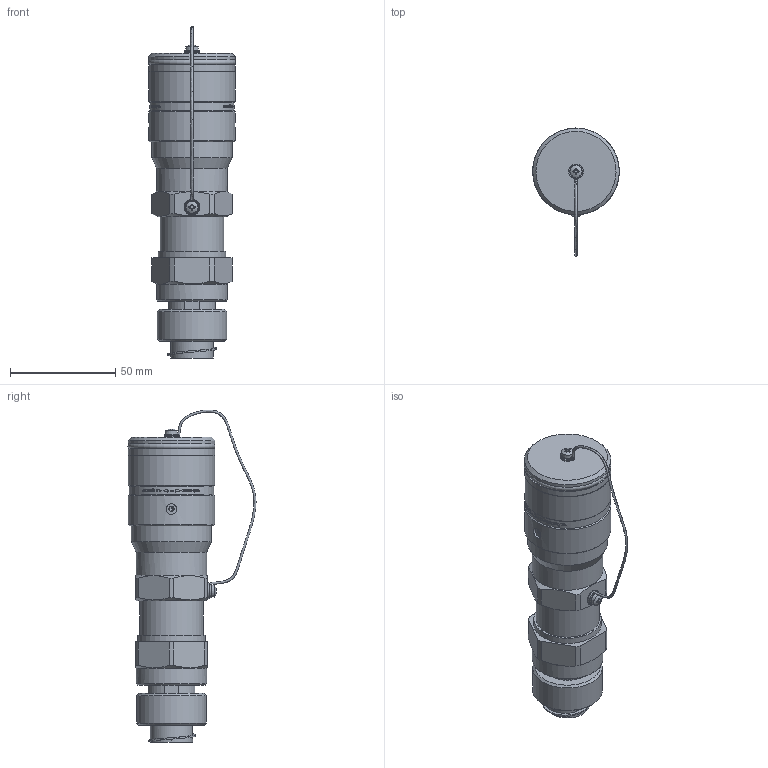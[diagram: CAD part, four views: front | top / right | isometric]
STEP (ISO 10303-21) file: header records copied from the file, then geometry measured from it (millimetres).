
FILE_DESCRIPTION (( 'STEP AP203' ), '1' );
FILE_NAME ('藏昃-24DC-7-狉昐20.STEP', '2021-11-19T11:44:33', ( '' ), ( '' ), 'SwSTEP 2.0', 'SolidWorks 2018', '' );
FILE_SCHEMA (( 'CONFIG_CONTROL_DESIGN' ));
Length unit declared in the file: millimetre
Products named in the file (1): 藏昃-24DC-7-狉昐20
Bounding box: 41.19 x 60.68 x 157.38 mm (x, y, z)
Volume: 119920.7 mm3; surface area: 31372.8 mm2
Topology: 1 solids, 1 shells, 777 faces, 2085 edges, 1381 vertices
Faces by surface type: plane 366, bspline 247, cylinder 112, cone 47, torus 3, sphere 2
Full cylindrical faces by diameter (mm): 2.5 x2, 2.75 x2, 3 x2, 3.2 x2, 3.5 x2, 5 x2, 18 x1, 20 x1, 20.4 x1, 22 x2, 24.5 x1, 25 x1, 28 x1, 29.835 x1, 30 x1, 32 x1, 33 x1, 33.5 x2, 38 x1, 38.7 x1, 40 x1, 41 x4
Entity records: 29366 total; most frequent: CARTESIAN_POINT 12019, ORIENTED_EDGE 3970, DIRECTION 2826, EDGE_CURVE 1985, VERTEX_POINT 1346, AXIS2_PLACEMENT_3D 960, EDGE_LOOP 923, LINE 906
